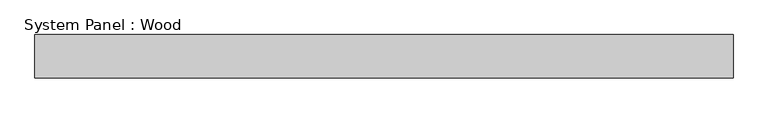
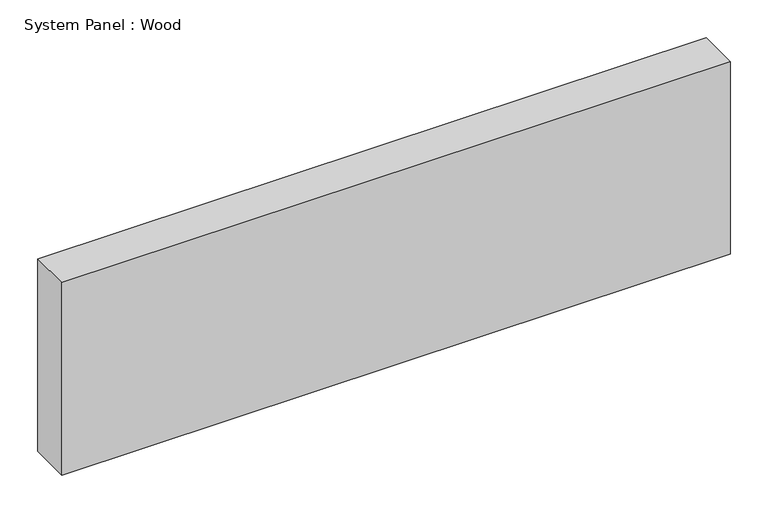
"""IFC4 building model written with IfcOpenShell, lengths in millimetres: plate geometry, System Panel : Wood."""

from ifc_helpers import new_model, si_unit, origin, origin_with_axes, place, context, project, spatial, polyline, outline, extrude, source, transform, mapped, element, save


def system_panel_wood_7e83a821(model_context):
    return source(origin(), model_context, "Body", "SweptSolid", [
        extrude(outline(polyline([(510.2678571, -19.05), (-510.2678571, -19.05), (-510.2678571, 44.45), (510.2678571, 44.45), (510.2678571, -19.05)])), origin_with_axes(), (0.0, 0.0, 1.0), 310.8709562),
    ])


if __name__ == "__main__":
    model = new_model("IFC4")
    model_context = context("Model", 3, world=origin())
    ifc_project = project(units=[si_unit("LENGTHUNIT", "METRE", prefix="MILLI")], contexts=[model_context])
    site = spatial("IfcSite", under=ifc_project)
    building = spatial("IfcBuilding", under=site)
    placement = place(None, origin())
    system_panel_wood_shape = system_panel_wood_7e83a821(model_context)
    element("IfcPlate", 1, ObjectType="System Panel : Wood", at=placement, inside=building, context=model_context, shape_type="MappedRepresentation", body=[
        mapped(system_panel_wood_shape, transform((0.0, 0.0, 0.0), x_axis=(1.0, 0.0, 0.0), y_axis=(0.0, 1.0, 0.0), z_axis=(0.0, 0.0, 1.0))),
    ])
    save(model, "model.ifc")
